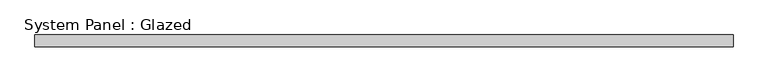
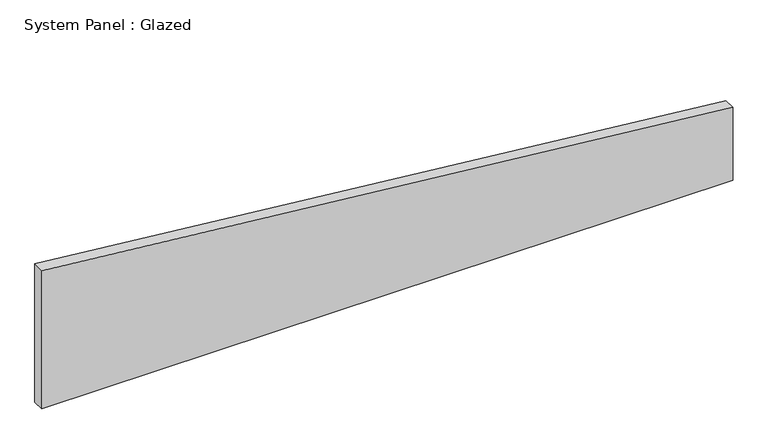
"""IFC4 building model written with IfcOpenShell, lengths in millimetres: plate geometry, System Panel : Glazed."""

from ifc_helpers import new_model, si_unit, frame, origin, place, context, project, spatial, polyline, outline, extrude, source, transform, mapped, element, save


def system_panel_glazed_b5444e83(model_context):
    return source(origin(), model_context, "Body", "SweptSolid", [
        extrude(outline(polyline([(0.0, -735.8695652), (0.0, 735.8695652), (163.3872082, 735.8695652), (311.3701869, -735.8695652), (0.0, -735.8695652)])), frame((0.0, 24.5, 0.0), z_axis=(0.0, 1.0, 0.0), x_axis=(0.0, 0.0, 1.0)), (0.0, 0.0, 1.0), 25.0),
    ])


if __name__ == "__main__":
    model = new_model("IFC4")
    model_context = context("Model", 3, world=origin())
    ifc_project = project(units=[si_unit("LENGTHUNIT", "METRE", prefix="MILLI")], contexts=[model_context])
    site = spatial("IfcSite", under=ifc_project)
    building = spatial("IfcBuilding", under=site)
    placement = place(None, origin())
    system_panel_glazed_shape = system_panel_glazed_b5444e83(model_context)
    element("IfcPlate", 1, ObjectType="System Panel : Glazed", at=placement, inside=building, context=model_context, shape_type="MappedRepresentation", body=[
        mapped(system_panel_glazed_shape, transform((0.0, 0.0, 0.0), x_axis=(1.0, 0.0, 0.0), y_axis=(0.0, 1.0, 0.0), z_axis=(0.0, 0.0, 1.0))),
    ])
    save(model, "model.ifc")
